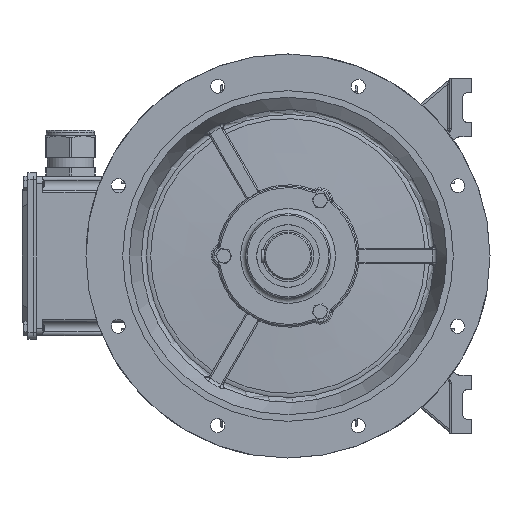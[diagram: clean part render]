
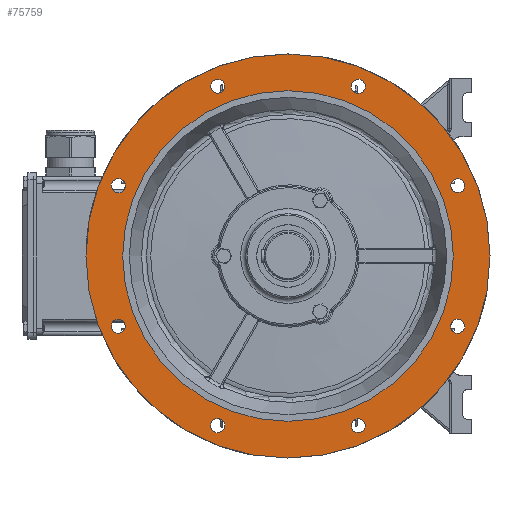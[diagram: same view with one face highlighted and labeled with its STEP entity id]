
A CAD part, left-side view. The second image highlights one B-rep face of the part: STEP entity #75759.
In plain terms, the highlighted planar face has unit normal (-1, 0, 0).
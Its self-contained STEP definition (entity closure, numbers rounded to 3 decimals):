
#75427=CARTESIAN_POINT('',(140.,88.953,-237.687));
#75428=VERTEX_POINT('',#75427);
#75429=CARTESIAN_POINT('',(140.,95.671,-230.97));
#75430=DIRECTION('',(1.0,0.0,0.0));
#75431=DIRECTION('',(0.0,0.707,0.707));
#75432=AXIS2_PLACEMENT_3D('',#75429,#75430,#75431);
#75433=CIRCLE('',#75432,9.5);
#75434=EDGE_CURVE('',#75428,#75428,#75433,.T.);
#75447=CARTESIAN_POINT('',(140.,-105.171,-230.97));
#75448=VERTEX_POINT('',#75447);
#75449=CARTESIAN_POINT('',(140.,-95.671,-230.97));
#75450=DIRECTION('',(1.0,0.0,0.0));
#75451=DIRECTION('',(0.0,1.0,0.0));
#75452=AXIS2_PLACEMENT_3D('',#75449,#75450,#75451);
#75453=CIRCLE('',#75452,9.5);
#75454=EDGE_CURVE('',#75448,#75448,#75453,.T.);
#75467=CARTESIAN_POINT('',(140.,-237.687,-88.953));
#75468=VERTEX_POINT('',#75467);
#75469=CARTESIAN_POINT('',(140.,-230.97,-95.671));
#75470=DIRECTION('',(1.0,0.0,0.0));
#75471=DIRECTION('',(0.0,0.707,-0.707));
#75472=AXIS2_PLACEMENT_3D('',#75469,#75470,#75471);
#75473=CIRCLE('',#75472,9.5);
#75474=EDGE_CURVE('',#75468,#75468,#75473,.T.);
#75487=CARTESIAN_POINT('',(140.,-230.97,105.171));
#75488=VERTEX_POINT('',#75487);
#75489=CARTESIAN_POINT('',(140.,-230.97,95.671));
#75490=DIRECTION('',(1.0,0.0,0.0));
#75491=DIRECTION('',(0.0,0.0,-1.0));
#75492=AXIS2_PLACEMENT_3D('',#75489,#75490,#75491);
#75493=CIRCLE('',#75492,9.5);
#75494=EDGE_CURVE('',#75488,#75488,#75493,.T.);
#75507=CARTESIAN_POINT('',(140.,-88.953,237.687));
#75508=VERTEX_POINT('',#75507);
#75509=CARTESIAN_POINT('',(140.,-95.671,230.97));
#75510=DIRECTION('',(1.0,0.0,0.0));
#75511=DIRECTION('',(0.0,-0.707,-0.707));
#75512=AXIS2_PLACEMENT_3D('',#75509,#75510,#75511);
#75513=CIRCLE('',#75512,9.5);
#75514=EDGE_CURVE('',#75508,#75508,#75513,.T.);
#75527=CARTESIAN_POINT('',(140.,105.171,230.97));
#75528=VERTEX_POINT('',#75527);
#75529=CARTESIAN_POINT('',(140.,95.671,230.97));
#75530=DIRECTION('',(1.0,0.0,0.0));
#75531=DIRECTION('',(0.0,-1.0,0.0));
#75532=AXIS2_PLACEMENT_3D('',#75529,#75530,#75531);
#75533=CIRCLE('',#75532,9.5);
#75534=EDGE_CURVE('',#75528,#75528,#75533,.T.);
#75547=CARTESIAN_POINT('',(140.,237.687,88.953));
#75548=VERTEX_POINT('',#75547);
#75549=CARTESIAN_POINT('',(140.,230.97,95.671));
#75550=DIRECTION('',(1.0,0.0,0.0));
#75551=DIRECTION('',(0.0,-0.707,0.707));
#75552=AXIS2_PLACEMENT_3D('',#75549,#75550,#75551);
#75553=CIRCLE('',#75552,9.5);
#75554=EDGE_CURVE('',#75548,#75548,#75553,.T.);
#75567=CARTESIAN_POINT('',(140.,230.97,-105.171));
#75568=VERTEX_POINT('',#75567);
#75569=CARTESIAN_POINT('',(140.,230.97,-95.671));
#75570=DIRECTION('',(1.0,0.0,0.0));
#75571=DIRECTION('',(0.0,0.0,1.0));
#75572=AXIS2_PLACEMENT_3D('',#75569,#75570,#75571);
#75573=CIRCLE('',#75572,9.5);
#75574=EDGE_CURVE('',#75568,#75568,#75573,.T.);
#75708=CARTESIAN_POINT('',(140.,245.5,0.0));
#75709=DIRECTION('',(-1.0,0.0,0.0));
#75710=DIRECTION('',(0.0,0.0,1.0));
#75711=AXIS2_PLACEMENT_3D('',#75708,#75709,#75710);
#75712=PLANE('',#75711);
#75713=CARTESIAN_POINT('',(140.,275.0,0.0));
#75714=VERTEX_POINT('',#75713);
#75715=CARTESIAN_POINT('',(140.,0.0,0.0));
#75716=DIRECTION('',(1.0,0.0,0.0));
#75717=DIRECTION('',(0.0,1.0,0.0));
#75718=AXIS2_PLACEMENT_3D('',#75715,#75716,#75717);
#75719=CIRCLE('',#75718,275.0);
#75720=EDGE_CURVE('',#75714,#75714,#75719,.T.);
#75721=ORIENTED_EDGE('',*,*,#75720,.F.);
#75722=EDGE_LOOP('',(#75721));
#75723=FACE_OUTER_BOUND('',#75722,.T.);
#75724=ORIENTED_EDGE('',*,*,#75434,.T.);
#75725=EDGE_LOOP('',(#75724));
#75726=FACE_BOUND('',#75725,.T.);
#75727=ORIENTED_EDGE('',*,*,#75454,.T.);
#75728=EDGE_LOOP('',(#75727));
#75729=FACE_BOUND('',#75728,.T.);
#75730=ORIENTED_EDGE('',*,*,#75474,.T.);
#75731=EDGE_LOOP('',(#75730));
#75732=FACE_BOUND('',#75731,.T.);
#75733=ORIENTED_EDGE('',*,*,#75494,.T.);
#75734=EDGE_LOOP('',(#75733));
#75735=FACE_BOUND('',#75734,.T.);
#75736=ORIENTED_EDGE('',*,*,#75514,.T.);
#75737=EDGE_LOOP('',(#75736));
#75738=FACE_BOUND('',#75737,.T.);
#75739=ORIENTED_EDGE('',*,*,#75534,.T.);
#75740=EDGE_LOOP('',(#75739));
#75741=FACE_BOUND('',#75740,.T.);
#75742=ORIENTED_EDGE('',*,*,#75554,.T.);
#75743=EDGE_LOOP('',(#75742));
#75744=FACE_BOUND('',#75743,.T.);
#75745=ORIENTED_EDGE('',*,*,#75574,.T.);
#75746=EDGE_LOOP('',(#75745));
#75747=FACE_BOUND('',#75746,.T.);
#75748=CARTESIAN_POINT('',(140.,225.0,0.0));
#75749=VERTEX_POINT('',#75748);
#75750=CARTESIAN_POINT('',(140.,0.0,0.0));
#75751=DIRECTION('',(1.0,0.0,0.0));
#75752=DIRECTION('',(0.0,1.0,0.0));
#75753=AXIS2_PLACEMENT_3D('',#75750,#75751,#75752);
#75754=CIRCLE('',#75753,225.0);
#75755=EDGE_CURVE('',#75749,#75749,#75754,.T.);
#75756=ORIENTED_EDGE('',*,*,#75755,.T.);
#75757=EDGE_LOOP('',(#75756));
#75758=FACE_BOUND('',#75757,.T.);
#75759=ADVANCED_FACE('',(#75723,#75726,#75729,#75732,#75735,#75738,#75741,#75744,#75747,#75758),#75712,.T.);
